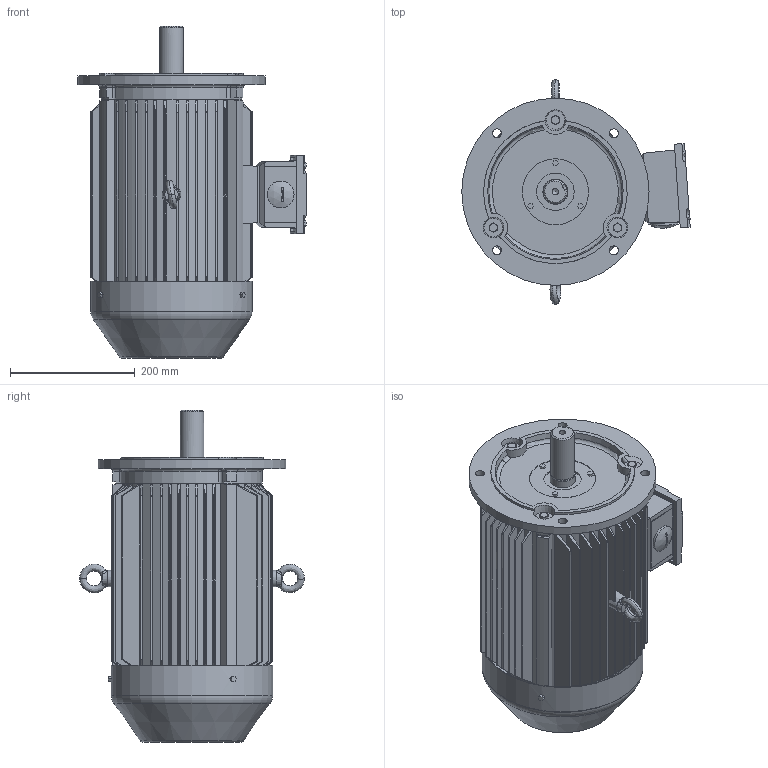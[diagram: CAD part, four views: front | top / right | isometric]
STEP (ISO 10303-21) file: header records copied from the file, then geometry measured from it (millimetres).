
FILE_DESCRIPTION(/* description */ (''),/* implementation_level */ '2;1');
FILE_NAME(/* name */ 'C:/Users/luigi_zhang/Desktop/temp/TE3-132M V1.step',/* time_stamp */ '2020-07-01T16:15:52+10:00',/* author */ (''),/* organization */ (''),/* preprocessor_version */ 'ST-DEVELOPER v18.1',/* originating_system */ 'Autodesk Translation Framework v9.3.0.1241',/* authorisation */ '');
FILE_SCHEMA (('AUTOMOTIVE_DESIGN { 1 0 10303 214 3 1 1 }'));
Products named in the file (10): (Unsaved); »ú×ùYX3-132M B5; GX132 P24 Í¹Ôµ¶Ë¸Ç; TE3-132 ·çÕÖ; TE3-132 ÖáÉì; TE3-112~132½ÓÏßºÐ; GX132 P24 ½ÓÏßºÐ×ù; GX112~132 P24½ÓÏßºÐ¸Ç; eyebolts gb_GB_FASTENER_SCREWS_FRS M10-N; hexagon head bolts--product grade c gb_GB_FASTENER_BOLT_HHBC M8X40-N
Assembly tree (12 placements, depth 3):
  (Unsaved)
    »ú×ùYX3-132M B5
    GX132 P24 Í¹Ôµ¶Ë¸Ç
    TE3-132 ·çÕÖ
    TE3-132 ÖáÉì
    eyebolts gb_GB_FASTENER_SCREWS_FRS M10-N  x2
    hexagon head bolts--product grade c gb_GB_FASTENER_BOLT_HHBC M8X40-N  x3
    TE3-112~132½ÓÏßºÐ
      GX132 P24 ½ÓÏßºÐ×ù
      GX112~132 P24½ÓÏßºÐ¸Ç
Bounding box: 365.94 x 360.2 x 532 mm (x, y, z)
Volume: 16346371.6 mm3; surface area: 1382508.6 mm2
Topology: 12 solids, 12 shells, 1194 faces, 2905 edges, 1917 vertices
Faces by surface type: plane 868, cylinder 136, bspline 97, cone 65, torus 21, sphere 7
Full cylindrical faces by diameter (mm): 5 x8, 8 x7, 10 x5, 10.2 x1, 12.669 x1, 14.5 x4, 23.72 x1, 38 x1, 40 x2, 42.7 x1, 60 x1, 106 x1, 215 x1, 256.4 x1, 258.4 x1, 300 x1
Entity records: 51348 total; most frequent: CARTESIAN_POINT 25105, ORIENTED_EDGE 5514, DIRECTION 4836, EDGE_CURVE 2757, LINE 2014, VECTOR 2014, VERTEX_POINT 1826, AXIS2_PLACEMENT_3D 1411
